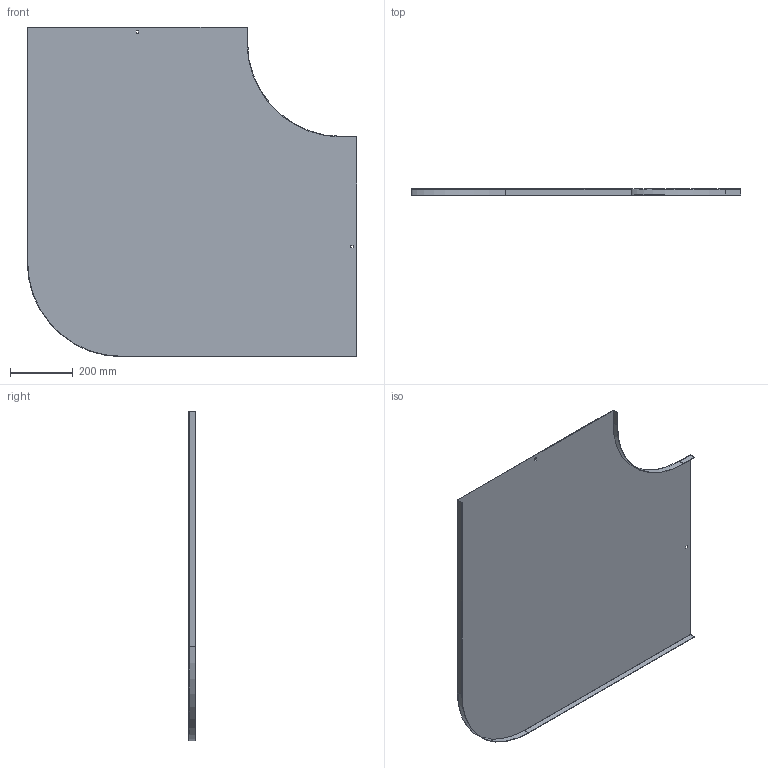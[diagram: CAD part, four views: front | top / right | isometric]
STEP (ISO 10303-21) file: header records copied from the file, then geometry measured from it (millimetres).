
FILE_DESCRIPTION (( 'STEP AP214' ), '1' );
FILE_NAME ('B2_10N3R700.step', '2025-02-21T10:54:35', ( '' ), ( '' ), 'SwSTEP 2.0', 'SolidWorks 2023', '' );
FILE_SCHEMA (( 'AUTOMOTIVE_DESIGN' ));
Length unit declared in the file: millimetre
Products named in the file (1): B2_10N3R700
Bounding box: 1051.5 x 20 x 1051.5 mm (x, y, z)
Volume: 1546098.8 mm3; surface area: 2067591.8 mm2
Topology: 1 solids, 1 shells, 26 faces, 72 edges, 48 vertices
Faces by surface type: plane 22, cylinder 4
Entity records: 855 total; most frequent: CARTESIAN_POINT 147, ORIENTED_EDGE 144, DIRECTION 134, EDGE_CURVE 72, LINE 64, VECTOR 64, VERTEX_POINT 48, AXIS2_PLACEMENT_3D 35
